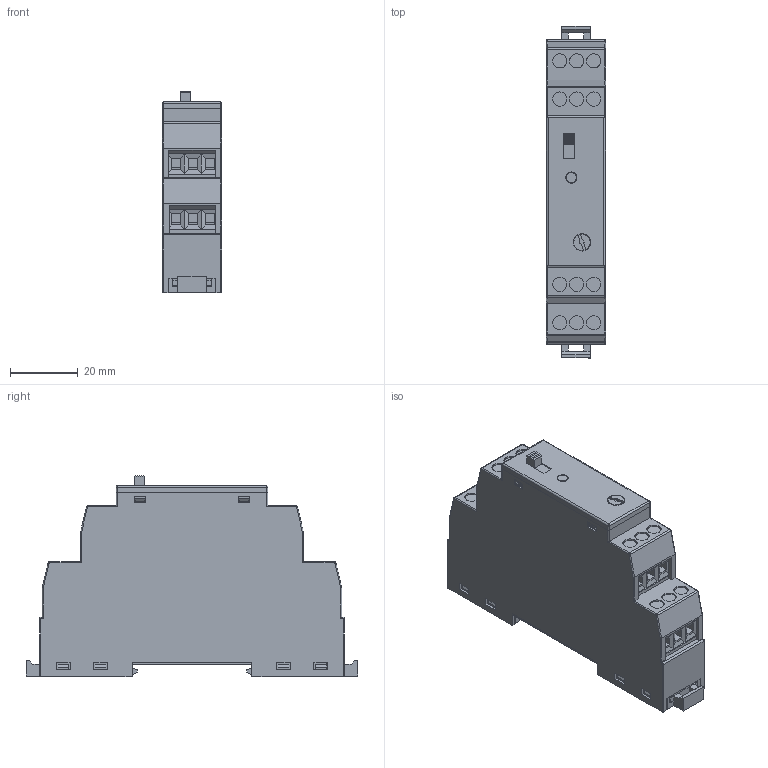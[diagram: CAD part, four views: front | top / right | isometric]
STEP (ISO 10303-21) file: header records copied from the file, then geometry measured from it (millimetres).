
FILE_DESCRIPTION (( 'STEP AP214' ), '1' );
FILE_NAME ('CMA-A.STEP', '2024-12-12T08:18:09', ( '' ), ( '' ), 'SwSTEP 2.0', 'SolidWorks 2024', '' );
FILE_SCHEMA (( 'AUTOMOTIVE_DESIGN' ));
Length unit declared in the file: millimetre
Products named in the file (1): CMA-A
Bounding box: 17.5 x 98 x 59.45 mm (x, y, z)
Volume: 71954.4 mm3; surface area: 18842.9 mm2
Topology: 1 solids, 1 shells, 999 faces, 2514 edges, 1530 vertices
Faces by surface type: plane 667, bspline 208, cylinder 103, torus 15, cone 4, sphere 2
Entity records: 32398 total; most frequent: CARTESIAN_POINT 9124, ORIENTED_EDGE 5018, DIRECTION 4582, EDGE_CURVE 2509, LINE 1864, VECTOR 1864, VERTEX_POINT 1530, AXIS2_PLACEMENT_3D 1359
